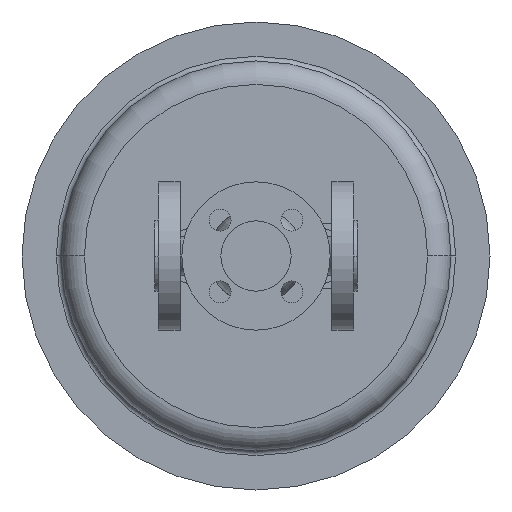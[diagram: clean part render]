
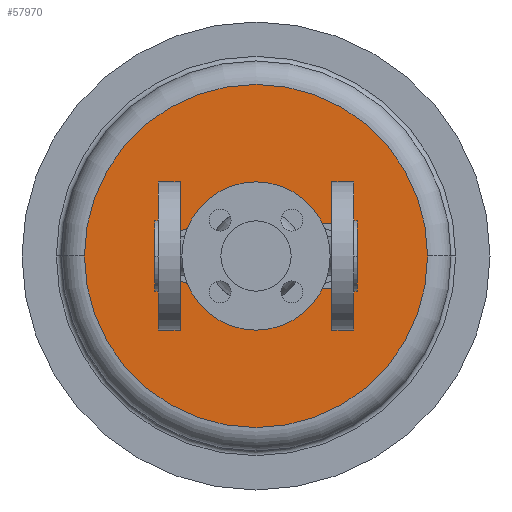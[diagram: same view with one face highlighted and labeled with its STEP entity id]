
A CAD part, front view. The second image highlights one B-rep face of the part: STEP entity #57970.
In plain terms, the highlighted planar face has unit normal (0, -1, 0).
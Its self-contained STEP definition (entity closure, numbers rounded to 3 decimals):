
#50270=CARTESIAN_POINT('',(175.,541.,0.));
#50280=VERTEX_POINT('',#50270);
#50310=CARTESIAN_POINT('',(65.,541.,0.));
#50320=DIRECTION('',(0.,1.,0.));
#50330=DIRECTION('',(1.,0.,0.));
#50340=AXIS2_PLACEMENT_3D('',#50310,#50320,#50330);
#50350=CIRCLE('',#50340,110.);
#50360=CARTESIAN_POINT('',(-45.,541.,0.));
#50370=VERTEX_POINT('',#50360);
#50380=EDGE_CURVE('',#50370,#50280,#50350,.T.);
#51040=CARTESIAN_POINT('',(100.,541.,0.));
#51050=VERTEX_POINT('',#51040);
#51080=CARTESIAN_POINT('',(115.,541.,0.));
#51090=DIRECTION('',(0.,1.,0.));
#51100=DIRECTION('',(1.,0.,0.));
#51110=AXIS2_PLACEMENT_3D('',#51080,#51090,#51100);
#51120=CIRCLE('',#51110,15.);
#51130=CARTESIAN_POINT('',(130.,541.,0.));
#51140=VERTEX_POINT('',#51130);
#51150=EDGE_CURVE('',#51050,#51140,#51120,.T.);
#51460=CARTESIAN_POINT('',(0.,541.,0.));
#51470=VERTEX_POINT('',#51460);
#51630=CARTESIAN_POINT('',(30.,541.,0.));
#51640=VERTEX_POINT('',#51630);
#51670=CARTESIAN_POINT('',(15.,541.,0.));
#51680=DIRECTION('',(0.,1.,0.));
#51690=DIRECTION('',(1.,0.,0.));
#51700=AXIS2_PLACEMENT_3D('',#51670,#51680,#51690);
#51710=CIRCLE('',#51700,15.);
#51720=EDGE_CURVE('',#51640,#51470,#51710,.T.);
#51860=CARTESIAN_POINT('',(46.55,541.,0.));
#51870=VERTEX_POINT('',#51860);
#51920=CARTESIAN_POINT('',(65.,541.,0.));
#51930=DIRECTION('',(0.,1.,0.));
#51940=DIRECTION('',(1.,0.,0.));
#51950=AXIS2_PLACEMENT_3D('',#51920,#51930,#51940);
#51960=CIRCLE('',#51950,18.45);
#51970=CARTESIAN_POINT('',(83.45,541.,0.));
#51980=VERTEX_POINT('',#51970);
#51990=EDGE_CURVE('',#51870,#51980,#51960,.T.);
#57720=CARTESIAN_POINT('',(120.,541.,0.));
#57730=DIRECTION('',(0.,-1.,0.));
#57740=DIRECTION('',(-1.,0.,0.));
#57750=AXIS2_PLACEMENT_3D('',#57720,#57730,#57740);
#57760=PLANE('',#57750);
#57770=EDGE_CURVE('',#51980,#51870,#51960,.T.);
#57780=ORIENTED_EDGE('',*,*,#57770,.T.);
#57790=ORIENTED_EDGE('',*,*,#51990,.T.);
#57800=EDGE_LOOP('',(#57790,#57780));
#57810=FACE_BOUND('',#57800,.T.);
#57820=EDGE_CURVE('',#51470,#51640,#51710,.T.);
#57830=ORIENTED_EDGE('',*,*,#57820,.T.);
#57840=ORIENTED_EDGE('',*,*,#51720,.T.);
#57850=EDGE_LOOP('',(#57840,#57830));
#57860=FACE_BOUND('',#57850,.T.);
#57870=ORIENTED_EDGE('',*,*,#51150,.T.);
#57880=EDGE_CURVE('',#51140,#51050,#51120,.T.);
#57890=ORIENTED_EDGE('',*,*,#57880,.T.);
#57900=EDGE_LOOP('',(#57890,#57870));
#57910=FACE_BOUND('',#57900,.T.);
#57920=EDGE_CURVE('',#50280,#50370,#50350,.T.);
#57930=ORIENTED_EDGE('',*,*,#57920,.F.);
#57940=ORIENTED_EDGE('',*,*,#50380,.F.);
#57950=EDGE_LOOP('',(#57940,#57930));
#57960=FACE_OUTER_BOUND('',#57950,.T.);
#57970=ADVANCED_FACE('',(#57810,#57860,#57910,#57960),#57760,.T.);
